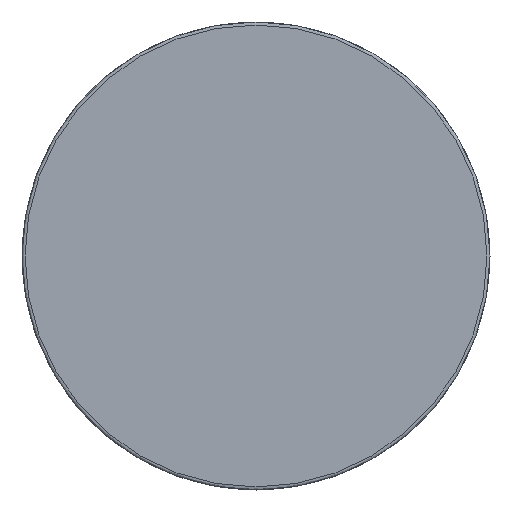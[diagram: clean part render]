
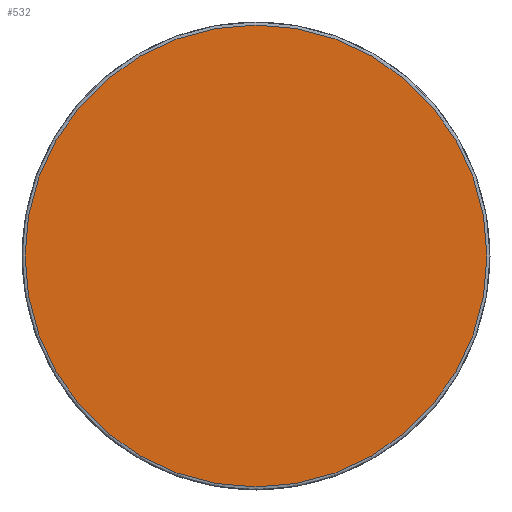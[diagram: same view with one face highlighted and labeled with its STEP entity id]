
A CAD part, left-side view. The second image highlights one B-rep face of the part: STEP entity #532.
In plain terms, the highlighted planar face has unit normal (-1, 0, 0).
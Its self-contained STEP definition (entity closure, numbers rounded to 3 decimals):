
#507=CARTESIAN_POINT('',(-389.034,-561.813,517.173));
#508=DIRECTION('',(-1.0,0.0,0.0));
#509=DIRECTION('',(0.0,1.0,0.0));
#510=AXIS2_PLACEMENT_3D('',#507,#508,#509);
#511=PLANE('',#510);
#512=CARTESIAN_POINT('',(-389.034,-427.313,443.372));
#513=VERTEX_POINT('',#512);
#514=CARTESIAN_POINT('',(-389.034,-548.713,443.372));
#515=VERTEX_POINT('',#514);
#516=CARTESIAN_POINT('',(-389.034,-488.013,443.372));
#517=DIRECTION('',(-1.0,0.0,0.0));
#518=DIRECTION('',(0.0,1.0,0.0));
#519=AXIS2_PLACEMENT_3D('',#516,#517,#518);
#520=CIRCLE('',#519,60.7);
#521=EDGE_CURVE('',#513,#515,#520,.T.);
#522=ORIENTED_EDGE('',*,*,#521,.T.);
#523=CARTESIAN_POINT('',(-389.034,-488.013,443.372));
#524=DIRECTION('',(-1.0,0.0,0.0));
#525=DIRECTION('',(0.0,1.0,0.0));
#526=AXIS2_PLACEMENT_3D('',#523,#524,#525);
#527=CIRCLE('',#526,60.7);
#528=EDGE_CURVE('',#515,#513,#527,.T.);
#529=ORIENTED_EDGE('',*,*,#528,.T.);
#530=EDGE_LOOP('',(#522,#529));
#531=FACE_OUTER_BOUND('',#530,.T.);
#532=ADVANCED_FACE('',(#531),#511,.T.);
